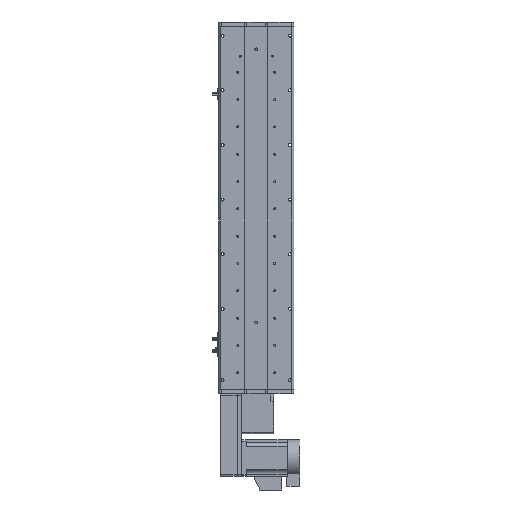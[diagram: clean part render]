
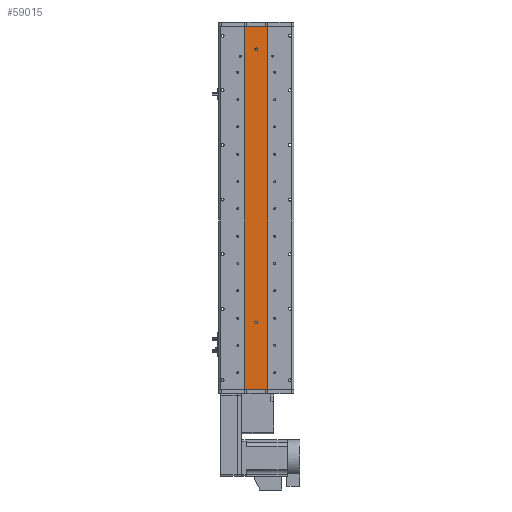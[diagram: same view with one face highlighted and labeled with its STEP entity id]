
A CAD part, front view. The second image highlights one B-rep face of the part: STEP entity #59015.
In plain terms, the highlighted planar face has unit normal (0, -1, 0).
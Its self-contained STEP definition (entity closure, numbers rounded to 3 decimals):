
#320 = EDGE_CURVE ( 'NONE', #44872, #15121, #56299, .T. ) ;
#1180 = DIRECTION ( 'NONE',  ( 0., 0., -1. ) ) ;
#1670 = CIRCLE ( 'NONE', #37332, 3. ) ;
#2182 = CARTESIAN_POINT ( 'NONE',  ( 25., 1., -398.5 ) ) ;
#2754 = CARTESIAN_POINT ( 'NONE',  ( 25., 1., 398.5 ) ) ;
#3302 = CARTESIAN_POINT ( 'NONE',  ( 0., 1., -251.5 ) ) ;
#3716 = EDGE_CURVE ( 'NONE', #15151, #37462, #13228, .T. ) ;
#4775 = AXIS2_PLACEMENT_3D ( 'NONE', #56065, #27291, #60912 ) ;
#7786 = ORIENTED_EDGE ( 'NONE', *, *, #13718, .F. ) ;
#8126 = DIRECTION ( 'NONE',  ( 0., 0., -1. ) ) ;
#9404 = CARTESIAN_POINT ( 'NONE',  ( -25., 1., 398.5 ) ) ;
#10956 = CIRCLE ( 'NONE', #16381, 3. ) ;
#11014 = CARTESIAN_POINT ( 'NONE',  ( 25., 1., -398.5 ) ) ;
#12255 = FACE_OUTER_BOUND ( 'NONE', #46855, .T. ) ;
#13110 = CIRCLE ( 'NONE', #49792, 3. ) ;
#13228 = LINE ( 'NONE', #2182, #37346 ) ;
#13718 = EDGE_CURVE ( 'NONE', #24081, #38496, #1670, .T. ) ;
#13791 = FACE_BOUND ( 'NONE', #53677, .T. ) ;
#15121 = VERTEX_POINT ( 'NONE', #61147 ) ;
#15151 = VERTEX_POINT ( 'NONE', #47294 ) ;
#16082 = CARTESIAN_POINT ( 'NONE',  ( 0., 1., 348.5 ) ) ;
#16381 = AXIS2_PLACEMENT_3D ( 'NONE', #16082, #49764, #20978 ) ;
#18041 = ORIENTED_EDGE ( 'NONE', *, *, #53617, .F. ) ;
#18256 = ORIENTED_EDGE ( 'NONE', *, *, #55093, .F. ) ;
#19057 = CARTESIAN_POINT ( 'NONE',  ( 0., 1., -254.5 ) ) ;
#20978 = DIRECTION ( 'NONE',  ( 0., 0., -1. ) ) ;
#22772 = PLANE ( 'NONE',  #52151 ) ;
#24081 = VERTEX_POINT ( 'NONE', #19057 ) ;
#24486 = CARTESIAN_POINT ( 'NONE',  ( 0., 1., 351.5 ) ) ;
#24497 = CARTESIAN_POINT ( 'NONE',  ( -25., 1., 398.5 ) ) ;
#24582 = ORIENTED_EDGE ( 'NONE', *, *, #320, .F. ) ;
#25131 = FACE_BOUND ( 'NONE', #47168, .T. ) ;
#27291 = DIRECTION ( 'NONE',  ( 0., -1., 0. ) ) ;
#27634 = DIRECTION ( 'NONE',  ( 0., 1., 0. ) ) ;
#28115 = ORIENTED_EDGE ( 'NONE', *, *, #3716, .T. ) ;
#28140 = VECTOR ( 'NONE', #41235, 1000. ) ;
#28920 = LINE ( 'NONE', #24497, #52960 ) ;
#30034 = DIRECTION ( 'NONE',  ( 0., -1., 0. ) ) ;
#30325 = ORIENTED_EDGE ( 'NONE', *, *, #40222, .F. ) ;
#32304 = ORIENTED_EDGE ( 'NONE', *, *, #58717, .T. ) ;
#34403 = DIRECTION ( 'NONE',  ( 0., 0., -1. ) ) ;
#34670 = VERTEX_POINT ( 'NONE', #50021 ) ;
#36968 = DIRECTION ( 'NONE',  ( 0., -1., 0. ) ) ;
#37332 = AXIS2_PLACEMENT_3D ( 'NONE', #3302, #36968, #8126 ) ;
#37346 = VECTOR ( 'NONE', #59808, 1000. ) ;
#37462 = VERTEX_POINT ( 'NONE', #11014 ) ;
#38496 = VERTEX_POINT ( 'NONE', #55248 ) ;
#40222 = EDGE_CURVE ( 'NONE', #38496, #24081, #13110, .T. ) ;
#40694 = VERTEX_POINT ( 'NONE', #24486 ) ;
#40843 = EDGE_CURVE ( 'NONE', #15121, #37462, #53683, .T. ) ;
#41235 = DIRECTION ( 'NONE',  ( 0., 0., -1. ) ) ;
#43542 = VECTOR ( 'NONE', #46084, 1000. ) ;
#44872 = VERTEX_POINT ( 'NONE', #9404 ) ;
#44936 = ORIENTED_EDGE ( 'NONE', *, *, #40843, .F. ) ;
#46084 = DIRECTION ( 'NONE',  ( 1., 0., 0. ) ) ;
#46855 = EDGE_LOOP ( 'NONE', ( #28115, #44936, #24582, #32304 ) ) ;
#47168 = EDGE_LOOP ( 'NONE', ( #18256, #18041 ) ) ;
#47294 = CARTESIAN_POINT ( 'NONE',  ( -25., 1., -398.5 ) ) ;
#49764 = DIRECTION ( 'NONE',  ( 0., -1., 0. ) ) ;
#49792 = AXIS2_PLACEMENT_3D ( 'NONE', #58812, #30034, #1180 ) ;
#50021 = CARTESIAN_POINT ( 'NONE',  ( 0., 1., 345.5 ) ) ;
#51558 = CARTESIAN_POINT ( 'NONE',  ( 25., 1., 398.5 ) ) ;
#52151 = AXIS2_PLACEMENT_3D ( 'NONE', #51558, #27634, #61226 ) ;
#52960 = VECTOR ( 'NONE', #34403, 1000. ) ;
#52980 = CIRCLE ( 'NONE', #4775, 3. ) ;
#53617 = EDGE_CURVE ( 'NONE', #40694, #34670, #10956, .T. ) ;
#53677 = EDGE_LOOP ( 'NONE', ( #7786, #30325 ) ) ;
#53683 = LINE ( 'NONE', #55539, #28140 ) ;
#55093 = EDGE_CURVE ( 'NONE', #34670, #40694, #52980, .T. ) ;
#55248 = CARTESIAN_POINT ( 'NONE',  ( 0., 1., -248.5 ) ) ;
#55539 = CARTESIAN_POINT ( 'NONE',  ( 25., 1., 398.5 ) ) ;
#56065 = CARTESIAN_POINT ( 'NONE',  ( 0., 1., 348.5 ) ) ;
#56299 = LINE ( 'NONE', #2754, #43542 ) ;
#58717 = EDGE_CURVE ( 'NONE', #44872, #15151, #28920, .T. ) ;
#58812 = CARTESIAN_POINT ( 'NONE',  ( 0., 1., -251.5 ) ) ;
#59015 = ADVANCED_FACE ( 'NONE', ( #25131, #13791, #12255 ), #22772, .F. ) ;
#59808 = DIRECTION ( 'NONE',  ( 1., 0., 0. ) ) ;
#60912 = DIRECTION ( 'NONE',  ( 0., 0., -1. ) ) ;
#61147 = CARTESIAN_POINT ( 'NONE',  ( 25., 1., 398.5 ) ) ;
#61226 = DIRECTION ( 'NONE',  ( 0., 0., 1. ) ) ;
